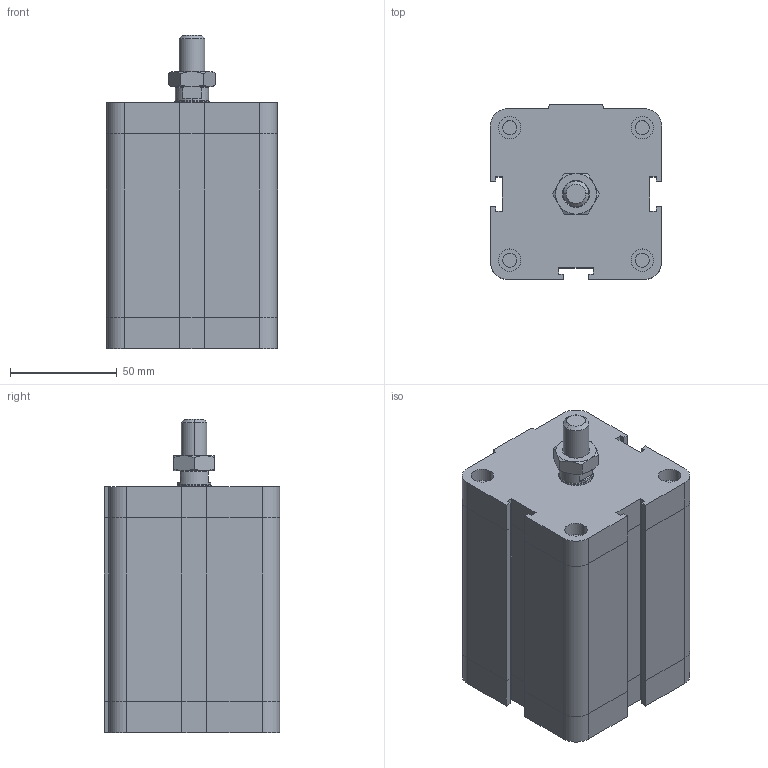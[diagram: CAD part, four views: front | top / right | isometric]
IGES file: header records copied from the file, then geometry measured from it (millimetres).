
Global section: file name: No Iges File Name specified; native system: Autodesk Inventor 2009; preprocessor: AutoDesk Inventor Iges Exporter R2009; author: rivolro1; date: 20081219.162522; units: millimetre
Bounding box: 80 x 82 x 146.5 mm (x, y, z)
Volume: 704469.2 mm3; surface area: 70106 mm2
Topology: 3 solids, 3 shells, 216 faces, 472 edges, 282 vertices
Faces by surface type: plane 121, bspline 37, cylinder 20, cone 20, revolution 18
